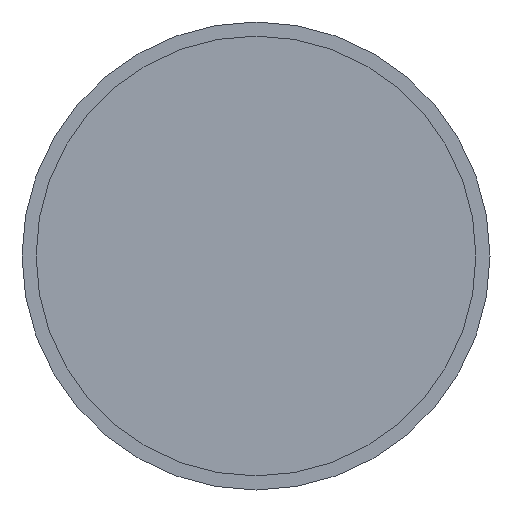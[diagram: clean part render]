
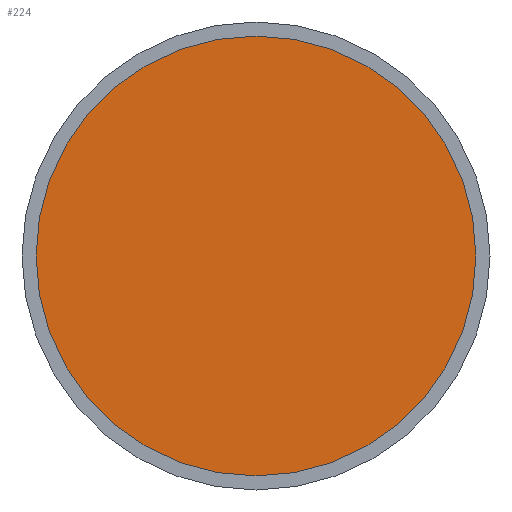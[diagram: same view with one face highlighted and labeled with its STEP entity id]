
A CAD part, left-side view. The second image highlights one B-rep face of the part: STEP entity #224.
In plain terms, the highlighted planar face has unit normal (-1, 0, 0).
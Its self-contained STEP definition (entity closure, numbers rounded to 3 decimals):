
#24=PLANE('',#282);
#36=FACE_OUTER_BOUND('',#50,.T.);
#50=EDGE_LOOP('',(#207,#208));
#65=CIRCLE('',#248,2.345);
#66=CIRCLE('',#249,2.345);
#91=VERTEX_POINT('',#373);
#92=VERTEX_POINT('',#375);
#116=EDGE_CURVE('',#91,#92,#65,.T.);
#117=EDGE_CURVE('',#92,#91,#66,.T.);
#207=ORIENTED_EDGE('',*,*,#117,.F.);
#208=ORIENTED_EDGE('',*,*,#116,.F.);
#224=ADVANCED_FACE('',(#36),#24,.T.);
#248=AXIS2_PLACEMENT_3D('',#376,#292,#293);
#249=AXIS2_PLACEMENT_3D('',#377,#294,#295);
#282=AXIS2_PLACEMENT_3D('',#435,#365,#366);
#292=DIRECTION('center_axis',(1.,0.,0.));
#293=DIRECTION('ref_axis',(0.,1.,0.));
#294=DIRECTION('center_axis',(1.,0.,0.));
#295=DIRECTION('ref_axis',(0.,1.,0.));
#365=DIRECTION('center_axis',(-1.,0.,0.));
#366=DIRECTION('ref_axis',(0.,0.,1.));
#373=CARTESIAN_POINT('',(0.,-2.345,0.));
#375=CARTESIAN_POINT('',(0.,2.345,0.));
#376=CARTESIAN_POINT('Origin',(0.,0.,0.));
#377=CARTESIAN_POINT('Origin',(0.,0.,0.));
#435=CARTESIAN_POINT('Origin',(0.,1.173,0.));
